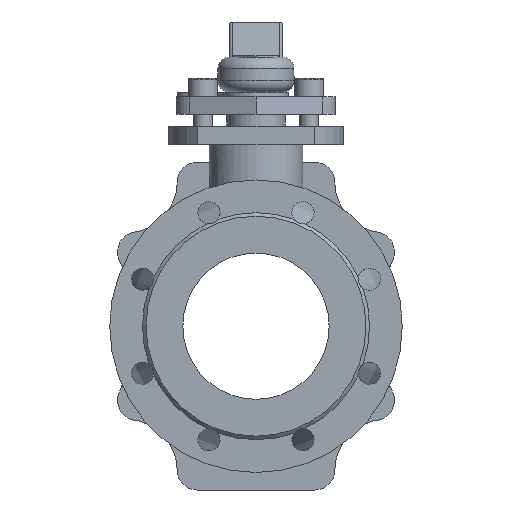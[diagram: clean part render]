
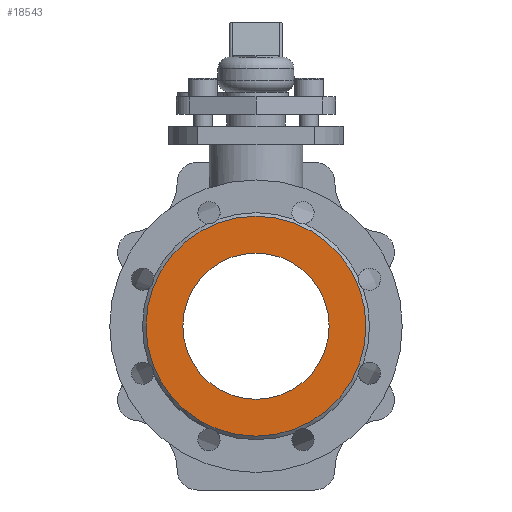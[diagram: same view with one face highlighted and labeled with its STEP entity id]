
A CAD part, front view. The second image highlights one B-rep face of the part: STEP entity #18543.
In plain terms, the highlighted planar face has unit normal (0, -1, 0).
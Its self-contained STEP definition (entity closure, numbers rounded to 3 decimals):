
#18543=ADVANCED_FACE('',(#34996,#34998),#35000,.T.);
#34996=FACE_BOUND('',#34997,.T.);
#34997=EDGE_LOOP('',(#48991,#48992));
#34998=FACE_BOUND('',#34999,.T.);
#34999=EDGE_LOOP('',(#48993));
#35000=PLANE('',#35001);
#35001=AXIS2_PLACEMENT_3D('',#35002,#35003,#35004);
#35002=CARTESIAN_POINT('',(18172.983,3739.709,34.));
#35003=DIRECTION('',(0.,-1.,0.));
#35004=DIRECTION('',(1.,0.,0.));
#48991=ORIENTED_EDGE('',*,*,#56176,.F.);
#48992=ORIENTED_EDGE('',*,*,#56177,.F.);
#48993=ORIENTED_EDGE('',*,*,#55970,.T.);
#55970=EDGE_CURVE('',#66425,#66425,#66426,.T.);
#56176=EDGE_CURVE('',#66791,#66792,#66793,.T.);
#56177=EDGE_CURVE('',#66792,#66791,#66794,.T.);
#66425=VERTEX_POINT('',#89107);
#66426=CIRCLE('',#89108,62.5);
#66791=VERTEX_POINT('',#91860);
#66792=VERTEX_POINT('',#91861);
#66793=CIRCLE('',#91862,94.);
#66794=CIRCLE('',#91866,94.);
#89107=CARTESIAN_POINT('',(18235.483,3739.709,-60.));
#89108=AXIS2_PLACEMENT_3D('',#89109,#89110,#89111);
#89109=CARTESIAN_POINT('',(18172.983,3739.709,-60.));
#89110=DIRECTION('',(0.,1.,0.));
#89111=DIRECTION('',(1.,0.,0.));
#91860=CARTESIAN_POINT('',(18188.976,3739.709,-152.63));
#91861=CARTESIAN_POINT('',(18172.983,3739.709,34.));
#91862=AXIS2_PLACEMENT_3D('',#91863,#91864,#91865);
#91863=CARTESIAN_POINT('',(18172.983,3739.709,-60.));
#91864=DIRECTION('',(0.,1.,0.));
#91865=DIRECTION('',(0.17,0.,-0.985));
#91866=AXIS2_PLACEMENT_3D('',#91867,#91868,#91869);
#91867=CARTESIAN_POINT('',(18172.983,3739.709,-60.));
#91868=DIRECTION('',(0.,1.,0.));
#91869=DIRECTION('',(0.,0.,1.));
